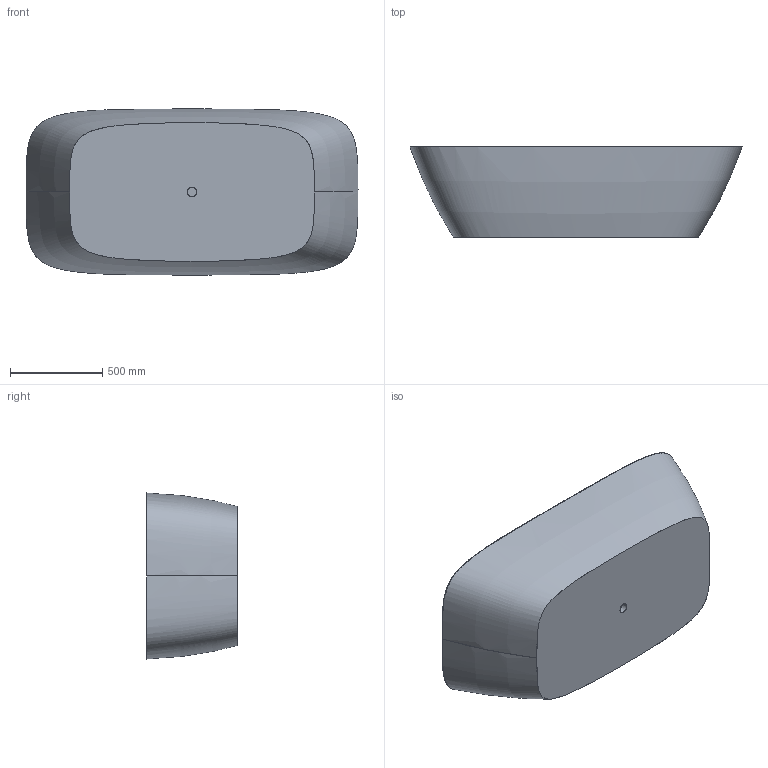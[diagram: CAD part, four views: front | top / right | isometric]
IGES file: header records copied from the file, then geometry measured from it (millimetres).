
Start section: SolidWorks IGES file using analytic representation for surfaces
Global section: file name: D:\Users\M.Szymanski\Desktop\Wanny\LaSenia\03. do przegrania\44\WP_LaSENIA_90x180x44.IGS; native system: SolidWorks 2011; preprocessor: SolidWorks 2011; author: M.Szymanski; date: 180530.111634; units: millimetre
Bounding box: 1799.51 x 490 x 899.91 mm (x, y, z)
Surface area: 6047987.8 mm2 (no closed solid volume)
Topology: 0 solids, 0 shells, 49 faces, 1403 edges, 1402 vertices
Faces by surface type: bspline 37, revolution 12
